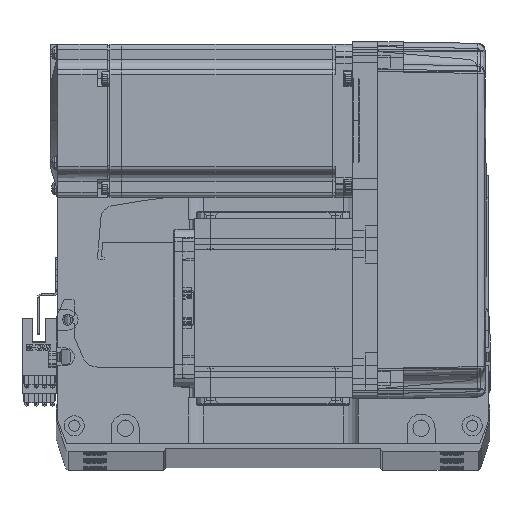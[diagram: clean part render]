
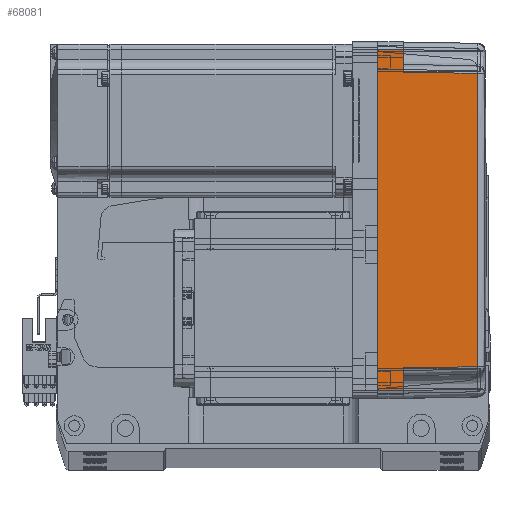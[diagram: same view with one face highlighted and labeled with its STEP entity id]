
A CAD part, top view. The second image highlights one B-rep face of the part: STEP entity #68081.
In plain terms, the highlighted planar face has unit normal (0.018, 0, 1) as drawn and (0, -1, 0.017) by its records, which use the part's own axes.
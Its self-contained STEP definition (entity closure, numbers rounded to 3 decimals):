
#221 = CARTESIAN_POINT ( 'NONE',  ( 57.495, -35.32, 38.985 ) ) ;
#1398 = LINE ( 'NONE', #65051, #13373 ) ;
#1801 = CARTESIAN_POINT ( 'NONE',  ( -66.959, -35.958, 2.39 ) ) ;
#2741 = EDGE_CURVE ( 'NONE', #47376, #40256, #6336, .T. ) ;
#3685 = EDGE_LOOP ( 'NONE', ( #76286, #31850, #56283, #65672, #9060, #72427, #50190, #45446 ) ) ;
#5600 = EDGE_CURVE ( 'NONE', #18628, #14202, #12978, .T. ) ;
#5823 = DIRECTION ( 'NONE',  ( -1., 0., 0. ) ) ;
#6336 = LINE ( 'NONE', #64577, #59862 ) ;
#8823 = CARTESIAN_POINT ( 'NONE',  ( -66.826, -35.825, 10. ) ) ;
#9060 = ORIENTED_EDGE ( 'NONE', *, *, #13566, .T. ) ;
#9277 = PLANE ( 'NONE',  #50270 ) ;
#12978 = B_SPLINE_CURVE_WITH_KNOTS ( 'NONE', 3,
 ( #26282, #49761, #67488, #19812 ),
 .UNSPECIFIED., .F., .F.,
 ( 4, 4 ),
 ( 0., 1. ),
 .UNSPECIFIED. ) ;
#13373 = VECTOR ( 'NONE', #70964, 1000. ) ;
#13566 = EDGE_CURVE ( 'NONE', #14202, #47376, #42760, .T. ) ;
#14202 = VERTEX_POINT ( 'NONE', #29894 ) ;
#15174 = DIRECTION ( 'NONE',  ( 0., -0.017, -1. ) ) ;
#15767 = EDGE_CURVE ( 'NONE', #58574, #60621, #1398, .T. ) ;
#18628 = VERTEX_POINT ( 'NONE', #221 ) ;
#19812 = CARTESIAN_POINT ( 'NONE',  ( -57.495, -35.32, 38.985 ) ) ;
#20017 = CARTESIAN_POINT ( 'NONE',  ( -58., -35.825, 10. ) ) ;
#20323 = VECTOR ( 'NONE', #43095, 1000. ) ;
#20579 = CARTESIAN_POINT ( 'NONE',  ( 70., -36., 0. ) ) ;
#26192 = LINE ( 'NONE', #31642, #68642 ) ;
#26282 = CARTESIAN_POINT ( 'NONE',  ( 57.495, -35.32, 38.985 ) ) ;
#28793 = LINE ( 'NONE', #57757, #50924 ) ;
#29894 = CARTESIAN_POINT ( 'NONE',  ( -57.495, -35.32, 38.985 ) ) ;
#31642 = CARTESIAN_POINT ( 'NONE',  ( 70., -35.825, 10. ) ) ;
#31688 = VECTOR ( 'NONE', #61821, 1000. ) ;
#31850 = ORIENTED_EDGE ( 'NONE', *, *, #48449, .T. ) ;
#32532 = VERTEX_POINT ( 'NONE', #71136 ) ;
#35480 = CARTESIAN_POINT ( 'NONE',  ( 67., -36., 0. ) ) ;
#36587 = DIRECTION ( 'NONE',  ( -1., 0., 0. ) ) ;
#38153 = DIRECTION ( 'NONE',  ( 0., -1., 0.017 ) ) ;
#40256 = VERTEX_POINT ( 'NONE', #8823 ) ;
#41566 = CARTESIAN_POINT ( 'NONE',  ( 67., -36., 0. ) ) ;
#42760 = LINE ( 'NONE', #44828, #31688 ) ;
#43095 = DIRECTION ( 'NONE',  ( 0.017, 0.017, 1. ) ) ;
#44828 = CARTESIAN_POINT ( 'NONE',  ( -57.495, -35.32, 38.985 ) ) ;
#45446 = ORIENTED_EDGE ( 'NONE', *, *, #15767, .F. ) ;
#47376 = VERTEX_POINT ( 'NONE', #20017 ) ;
#48449 = EDGE_CURVE ( 'NONE', #57105, #32532, #26192, .T. ) ;
#49761 = CARTESIAN_POINT ( 'NONE',  ( 19.165, -35.316, 39.181 ) ) ;
#50190 = ORIENTED_EDGE ( 'NONE', *, *, #68915, .F. ) ;
#50270 = AXIS2_PLACEMENT_3D ( 'NONE', #20579, #38153, #15174 ) ;
#50924 = VECTOR ( 'NONE', #63636, 1000. ) ;
#52934 = DIRECTION ( 'NONE',  ( -0.017, 0.017, 1. ) ) ;
#53237 = EDGE_CURVE ( 'NONE', #32532, #18628, #28793, .T. ) ;
#56135 = FACE_OUTER_BOUND ( 'NONE', #3685, .T. ) ;
#56283 = ORIENTED_EDGE ( 'NONE', *, *, #53237, .T. ) ;
#57105 = VERTEX_POINT ( 'NONE', #73144 ) ;
#57757 = CARTESIAN_POINT ( 'NONE',  ( 58., -35.825, 10. ) ) ;
#58574 = VERTEX_POINT ( 'NONE', #35480 ) ;
#59862 = VECTOR ( 'NONE', #5823, 1000. ) ;
#60621 = VERTEX_POINT ( 'NONE', #73983 ) ;
#61821 = DIRECTION ( 'NONE',  ( -0.017, -0.017, -1. ) ) ;
#62391 = EDGE_CURVE ( 'NONE', #58574, #57105, #67925, .T. ) ;
#63636 = DIRECTION ( 'NONE',  ( -0.017, 0.017, 1. ) ) ;
#64577 = CARTESIAN_POINT ( 'NONE',  ( 70., -35.825, 10. ) ) ;
#65051 = CARTESIAN_POINT ( 'NONE',  ( 0., -36., 0. ) ) ;
#65672 = ORIENTED_EDGE ( 'NONE', *, *, #5600, .T. ) ;
#67488 = CARTESIAN_POINT ( 'NONE',  ( -19.165, -35.316, 39.181 ) ) ;
#67925 = LINE ( 'NONE', #41566, #68815 ) ;
#68081 = ADVANCED_FACE ( 'NONE', ( #56135 ), #9277, .T. ) ;
#68361 = LINE ( 'NONE', #1801, #20323 ) ;
#68642 = VECTOR ( 'NONE', #36587, 1000. ) ;
#68815 = VECTOR ( 'NONE', #52934, 1000. ) ;
#68915 = EDGE_CURVE ( 'NONE', #60621, #40256, #68361, .T. ) ;
#70964 = DIRECTION ( 'NONE',  ( -1., 0., 0. ) ) ;
#71136 = CARTESIAN_POINT ( 'NONE',  ( 58., -35.825, 10. ) ) ;
#72427 = ORIENTED_EDGE ( 'NONE', *, *, #2741, .T. ) ;
#73144 = CARTESIAN_POINT ( 'NONE',  ( 66.826, -35.825, 10. ) ) ;
#73983 = CARTESIAN_POINT ( 'NONE',  ( -67., -36., 0. ) ) ;
#76286 = ORIENTED_EDGE ( 'NONE', *, *, #62391, .T. ) ;
